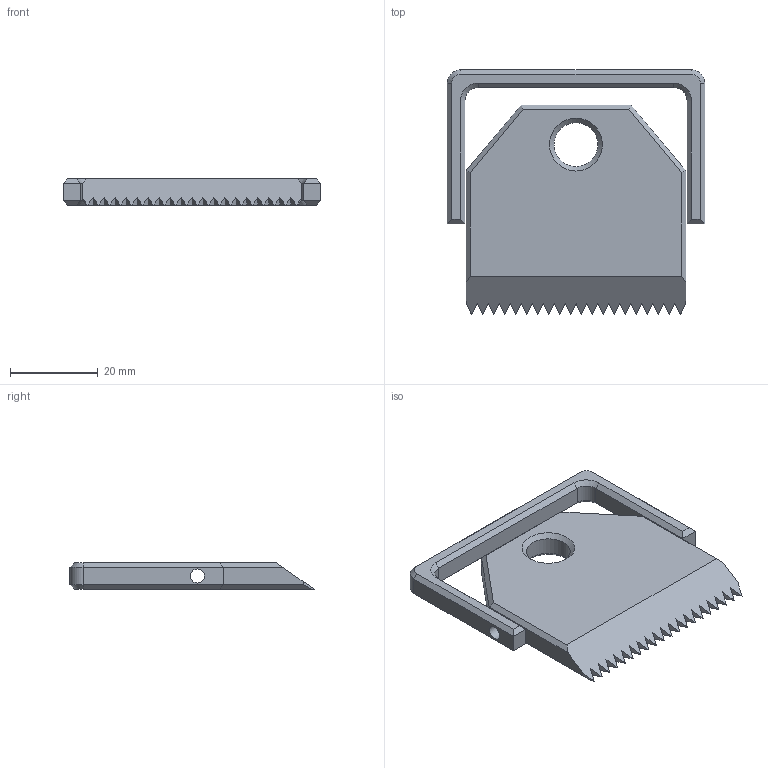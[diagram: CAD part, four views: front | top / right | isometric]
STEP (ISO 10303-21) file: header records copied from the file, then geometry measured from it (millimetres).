
FILE_DESCRIPTION(/* description */ (''),/* implementation_level */ '2;1');
FILE_NAME(/* name */ 'Buckle v2.step',/* time_stamp */ '2023-04-27T21:17:14-07:00',/* author */ (''),/* organization */ (''),/* preprocessor_version */ 'ST-DEVELOPER v19.2',/* originating_system */ 'Autodesk Translation Framework v12.4.0.73',/* authorisation */ '');
FILE_SCHEMA (('AUTOMOTIVE_DESIGN { 1 0 10303 214 3 1 1 }'));
Length unit declared in the file: millimetre
Products named in the file (1): Buckle
Bounding box: 58.5 x 55.51 x 6 mm (x, y, z)
Volume: 13317.3 mm3; surface area: 7706.4 mm2
Topology: 2 solids, 2 shells, 102 faces, 240 edges, 142 vertices
Faces by surface type: plane 84, cone 10, cylinder 8
Full cylindrical faces by diameter (mm): 3.2 x2, 3.4 x1, 10 x1
Entity records: 2866 total; most frequent: CARTESIAN_POINT 485, ORIENTED_EDGE 480, DIRECTION 472, EDGE_CURVE 240, LINE 214, VECTOR 214, VERTEX_POINT 142, AXIS2_PLACEMENT_3D 129
